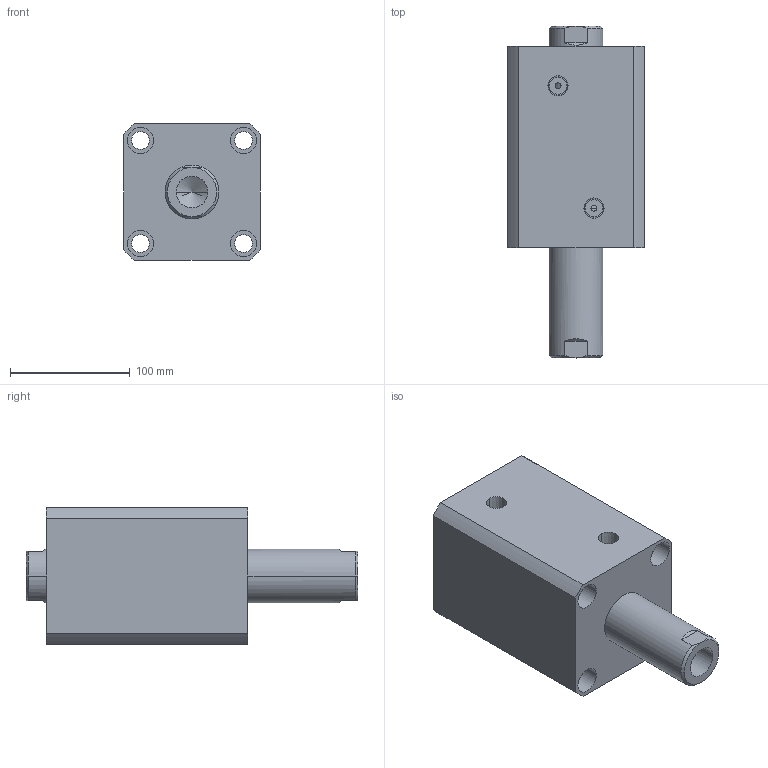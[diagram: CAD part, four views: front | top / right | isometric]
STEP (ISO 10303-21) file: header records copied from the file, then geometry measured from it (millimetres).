
FILE_DESCRIPTION (( 'STEP AP214' ), '1' );
FILE_NAME ('chtb-sw80x75n_asm.STEP', '2018-05-28T00:54:26', ( 'Windows' ), ( 'Microsoft' ), 'SwSTEP 2.0', 'SolidWorks 2015', '' );
FILE_SCHEMA (( 'AUTOMOTIVE_DESIGN' ));
Length unit declared in the file: millimetre
Products named in the file (4): CHTB-SD80QG; CHTB-SW80X75NBT; CHTB-SD80X75NHSG; chtb-sw80x75n_asm
Assembly tree (3 placements, depth 2):
  chtb-sw80x75n_asm
    CHTB-SD80X75NHSG
    CHTB-SW80X75NBT
    CHTB-SD80QG
Bounding box: 114 x 277 x 114 mm (x, y, z)
Volume: 1864412.9 mm3; surface area: 256548.8 mm2
Topology: 3 solids, 3 shells, 208 faces, 550 edges, 365 vertices
Faces by surface type: cylinder 109, plane 42, cone 25, torus 18, bspline 14
Entity records: 15645 total; most frequent: CARTESIAN_POINT 10539, ORIENTED_EDGE 1084, DIRECTION 970, EDGE_CURVE 542, AXIS2_PLACEMENT_3D 407, VERTEX_POINT 365, EDGE_LOOP 249, FACE_OUTER_BOUND 208
